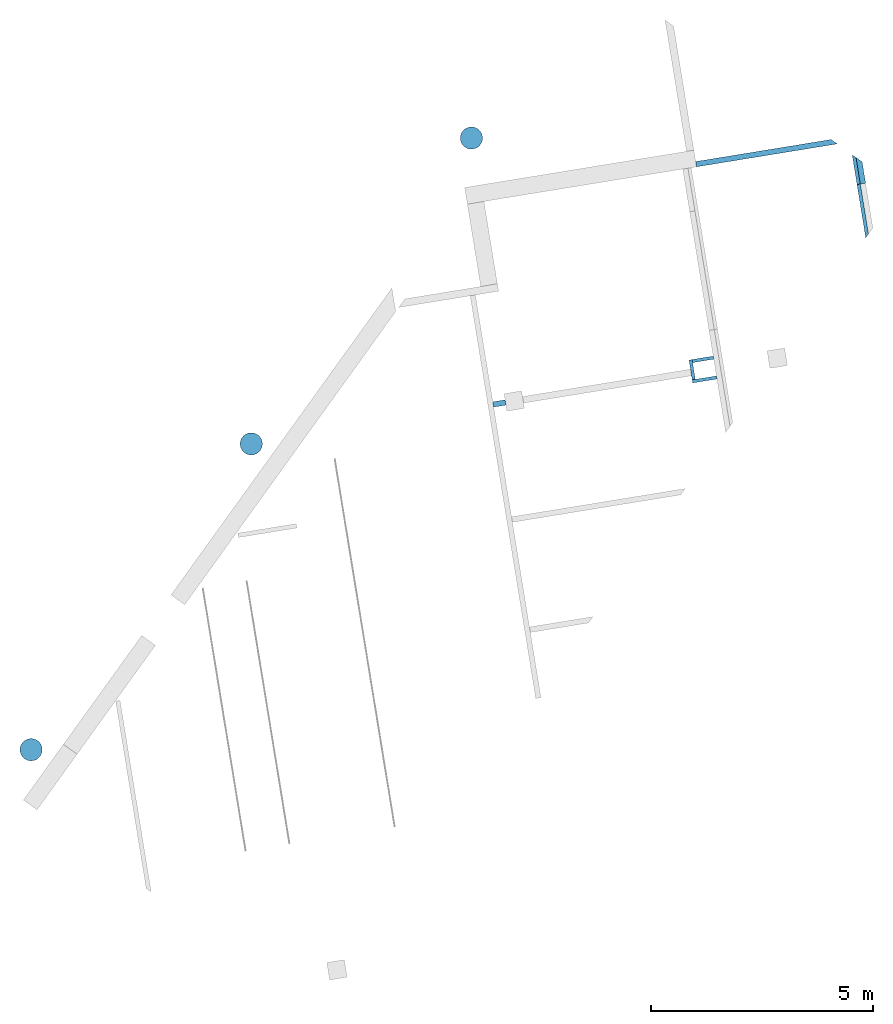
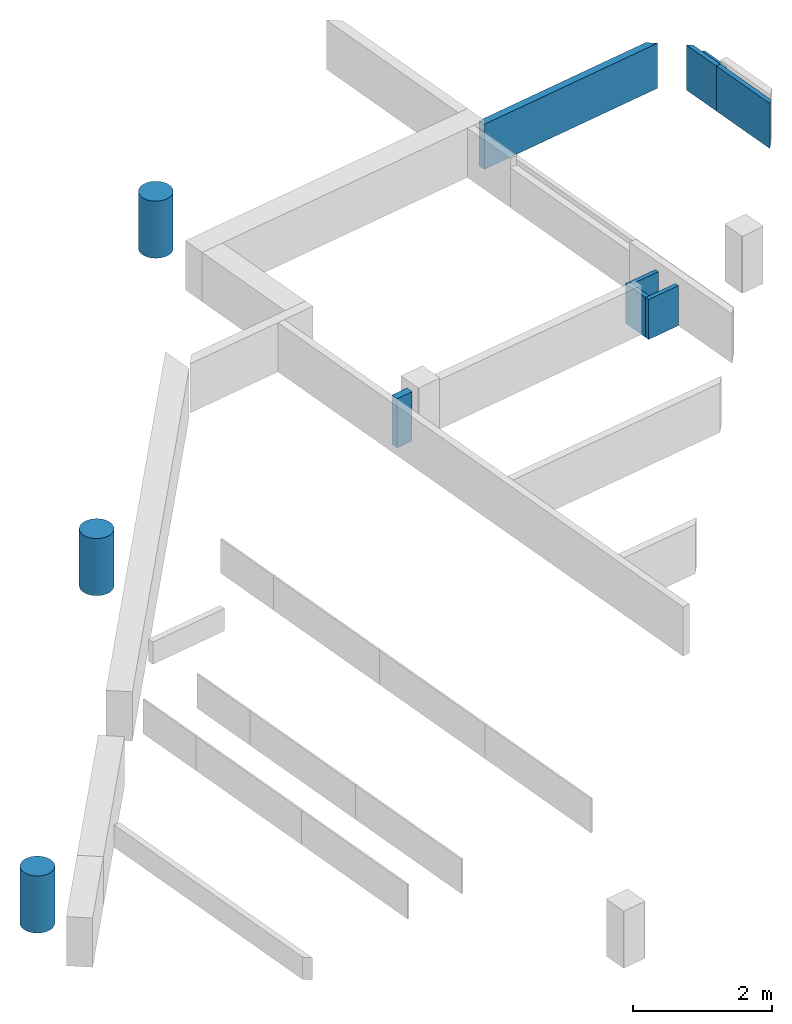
# One storey, part 2 of 2: 8 walls, 3 columns.
"""IFC2X3 building model written with IfcOpenShell, lengths in millimetres."""

from ifc_helpers import new_model, entity, si_unit, converted_unit, derived_unit, direction, frame, origin, origin_with_axes, place, context, subcontext, project, spatial, faceted_brep, material, layer, layer_set, type_object, element, save


model = new_model("IFC2X3")

# Units and contexts
model_context = context("Model", 3, precision=0.01, world=origin(), true_north=direction((6.12323399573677e-17, 1.0)))
plan_context = context("Plan", 3, precision=1e-05, world=origin_with_axes())
body_context = subcontext(model_context, "Body", "Model", "MODEL_VIEW")
ifc_project = project(units=[converted_unit("PLANEANGLEUNIT", "DEGREE", entity("IfcPositiveLengthMeasure", 0.0174532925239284), si_unit("PLANEANGLEUNIT", "RADIAN"), dimensions=[0, 0, 0, 0, 0, 0, 0]), si_unit("AREAUNIT", "SQUARE_METRE"), si_unit("LENGTHUNIT", "METRE", prefix="MILLI"), si_unit("MASSUNIT", "GRAM", prefix="KILO"), si_unit("POWERUNIT", "WATT"), si_unit("PRESSUREUNIT", "PASCAL", prefix="KILO"), si_unit("FORCEUNIT", "NEWTON", prefix="KILO"), si_unit("ELECTRICVOLTAGEUNIT", "VOLT"), si_unit("ELECTRICCURRENTUNIT", "AMPERE"), si_unit("THERMODYNAMICTEMPERATUREUNIT", "DEGREE_CELSIUS"), si_unit("TIMEUNIT", "SECOND"), si_unit("VOLUMEUNIT", "CUBIC_METRE"), derived_unit("LINEARVELOCITYUNIT", [(si_unit("LENGTHUNIT", "METRE"), 1), (si_unit("TIMEUNIT", "SECOND"), -1)]), derived_unit("VOLUMETRICFLOWRATEUNIT", [(si_unit("VOLUMEUNIT", "CUBIC_METRE"), 1), (si_unit("TIMEUNIT", "SECOND"), -1)]), derived_unit("THERMALTRANSMITTANCEUNIT", [(si_unit("POWERUNIT", "WATT"), 1), (si_unit("THERMODYNAMICTEMPERATUREUNIT", "KELVIN"), -1), (si_unit("AREAUNIT", "SQUARE_METRE"), -1)]), derived_unit("SOUNDPRESSUREUNIT", [(si_unit("PRESSUREUNIT", "PASCAL"), 1)])], contexts=[model_context, plan_context])

# Site, building, storey
site_placement = place(None, frame((-305029.896016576, -232111.759730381, 0.0), z_axis=(0.0, 0.0, 1.0), x_axis=(-0.160806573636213, 0.986985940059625, 0.0)))
site = spatial("IfcSite", under=ifc_project, at=site_placement, Name="Default", CompositionType="ELEMENT")
building_placement = place(site_placement, frame((0.0, 0.0, 0.0), z_axis=(0.0, 0.0, 1.0), x_axis=(1.0, -2.77555756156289e-17, 0.0)))
building = spatial("IfcBuilding", under=site, at=building_placement, Name="br001-a-200-1-0001", CompositionType="ELEMENT")
storey_placement = place(building_placement, frame((0.0, 0.0, 51360.0000000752), z_axis=(0.0, 0.0, 1.0), x_axis=(1.0, -2.77555756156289e-17, 0.0)))
storey = spatial("IfcBuildingStorey", under=building, at=storey_placement, Name="H01-Nivå D+0,36", CompositionType="ELEMENT", Elevation=51360.0000000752)

# Columns
ifc_material_1 = material(Name="_NSW Betong")
column_type = type_object("IfcColumnType", Name="NSW Søyle - Betong rund:ø500 mm", PredefinedType="COLUMN", material=ifc_material_1)
column_1_placement = place(storey_placement, frame((1190678.59858442, -686766.378367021, -51360.0000000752), z_axis=(0.0, 0.0, 1.0), x_axis=(1.0, -2.77555756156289e-17, 0.0)))
element("IfcColumn", 1, at=column_1_placement, inside=storey, type_object=column_type, Name="NSW Søyle - Betong rund:ø500 mm", ObjectType="NSW Søyle - Betong rund:ø500 mm", context=body_context, shape_type="Brep", body=[
    faceted_brep([(249.999999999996, -3.94377568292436e-13, 54500.0), (246.201938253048, -43.4120444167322, 54500.0), (246.201938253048, -43.4120444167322, 55500.0), (249.999999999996, -3.94377568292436e-13, 55500.0), (246.201938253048, 43.4120444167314, 54500.0), (246.201938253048, 43.4120444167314, 55500.0), (234.923155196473, 85.5050358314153, 54500.0), (234.923155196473, 85.5050358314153, 55500.0), (216.506350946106, 124.999999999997, 54500.0), (216.506350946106, 124.999999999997, 55500.0), (191.511110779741, 160.696902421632, 54500.0), (191.511110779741, 160.696902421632, 55500.0), (160.696902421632, 191.511110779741, 54500.0), (160.696902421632, 191.511110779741, 55500.0), (124.999999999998, 216.506350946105, 54500.0), (124.999999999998, 216.506350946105, 55500.0), (85.5050358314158, 234.923155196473, 54500.0), (85.5050358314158, 234.923155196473, 55500.0), (43.4120444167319, 246.201938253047, 54500.0), (43.4120444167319, 246.201938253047, 55500.0), (6.17269247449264e-14, 249.999999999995, 54500.0), (6.17269247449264e-14, 249.999999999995, 55500.0), (-43.4120444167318, 246.201938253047, 54500.0), (-43.4120444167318, 246.201938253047, 55500.0), (-85.5050358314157, 234.923155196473, 54500.0), (-85.5050358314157, 234.923155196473, 55500.0), (-124.999999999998, 216.506350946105, 54500.0), (-124.999999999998, 216.506350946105, 55500.0), (-160.696902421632, 191.511110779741, 54500.0), (-160.696902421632, 191.511110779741, 55500.0), (-191.511110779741, 160.696902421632, 54500.0), (-191.511110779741, 160.696902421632, 55500.0), (-216.506350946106, 124.999999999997, 54500.0), (-216.506350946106, 124.999999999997, 55500.0), (-234.923155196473, 85.5050358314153, 54500.0), (-234.923155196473, 85.5050358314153, 55500.0), (-246.201938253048, 43.4120444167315, 54500.0), (-246.201938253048, 43.4120444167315, 55500.0), (-249.999999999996, -3.63761398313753e-13, 54500.0), (-249.999999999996, -3.63761398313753e-13, 55500.0), (-246.201938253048, -43.4120444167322, 54500.0), (-246.201938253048, -43.4120444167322, 55500.0), (-234.923155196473, -85.5050358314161, 54500.0), (-234.923155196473, -85.5050358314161, 55500.0), (-216.506350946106, -124.999999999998, 54500.0), (-216.506350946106, -124.999999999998, 55500.0), (-191.511110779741, -160.696902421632, 54500.0), (-191.511110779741, -160.696902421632, 55500.0), (-160.696902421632, -191.511110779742, 54500.0), (-160.696902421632, -191.511110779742, 55500.0), (-124.999999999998, -216.506350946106, 54500.0), (-124.999999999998, -216.506350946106, 55500.0), (-85.5050358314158, -234.923155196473, 54500.0), (-85.5050358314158, -234.923155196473, 55500.0), (-43.4120444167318, -246.201938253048, 54500.0), (-43.4120444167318, -246.201938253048, 55500.0), (4.94584787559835e-16, -249.999999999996, 54500.0), (4.94584787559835e-16, -249.999999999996, 55500.0), (43.4120444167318, -246.201938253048, 54500.0), (43.4120444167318, -246.201938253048, 55500.0), (85.5050358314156, -234.923155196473, 54500.0), (85.5050358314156, -234.923155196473, 55500.0), (124.999999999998, -216.506350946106, 54500.0), (124.999999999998, -216.506350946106, 55500.0), (160.696902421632, -191.511110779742, 54500.0), (160.696902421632, -191.511110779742, 55500.0), (191.511110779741, -160.696902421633, 54500.0), (191.511110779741, -160.696902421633, 55500.0), (216.506350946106, -124.999999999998, 54500.0), (216.506350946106, -124.999999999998, 55500.0), (234.923155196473, -85.5050358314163, 54500.0), (234.923155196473, -85.5050358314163, 55500.0)], [[[0, 1, 2, 3]], [[4, 0, 3, 5]], [[6, 4, 5, 7]], [[8, 6, 7, 9]], [[10, 8, 9, 11]], [[12, 10, 11, 13]], [[14, 12, 13, 15]], [[16, 14, 15, 17]], [[18, 16, 17, 19]], [[20, 18, 19, 21]], [[22, 20, 21, 23]], [[24, 22, 23, 25]], [[26, 24, 25, 27]], [[28, 26, 27, 29]], [[30, 28, 29, 31]], [[32, 30, 31, 33]], [[34, 32, 33, 35]], [[36, 34, 35, 37]], [[38, 36, 37, 39]], [[40, 38, 39, 41]], [[42, 40, 41, 43]], [[44, 42, 43, 45]], [[46, 44, 45, 47]], [[48, 46, 47, 49]], [[50, 48, 49, 51]], [[52, 50, 51, 53]], [[54, 52, 53, 55]], [[56, 54, 55, 57]], [[58, 56, 57, 59]], [[60, 58, 59, 61]], [[62, 60, 61, 63]], [[64, 62, 63, 65]], [[66, 64, 65, 67]], [[68, 66, 67, 69]], [[70, 68, 69, 71]], [[1, 70, 71, 2]], [[3, 2, 71, 69, 67, 65, 63, 61, 59, 57, 55, 53, 51, 49, 47, 45, 43, 41, 39, 37, 35, 33, 31, 29, 27, 25, 23, 21, 19, 17, 15, 13, 11, 9, 7, 5]], [[4, 6, 8, 10, 12, 14, 16, 18, 20, 22, 24, 26, 28, 30, 32, 34, 36, 38, 40, 42, 44, 46, 48, 50, 52, 54, 56, 58, 60, 62, 64, 66, 68, 70, 1, 0]]], orient=[[False], [False], [False], [False], [False], [False], [False], [False], [False], [False], [False], [False], [False], [False], [False], [False], [False], [False], [False], [False], [False], [False], [False], [False], [False], [False], [False], [False], [False], [False], [False], [False], [False], [False], [False], [False], [False], [False]]),
])
column_2_placement = place(storey_placement, frame((1178678.59858442, -674766.378367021, -51360.0000000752), z_axis=(0.0, 0.0, 1.0), x_axis=(1.0, -2.77555756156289e-17, 0.0)))
element("IfcColumn", 2, at=column_2_placement, inside=storey, type_object=column_type, Name="NSW Søyle - Betong rund:ø500 mm", ObjectType="NSW Søyle - Betong rund:ø500 mm", context=body_context, shape_type="Brep", body=[
    faceted_brep([(249.999999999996, -3.94377568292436e-13, 54500.0), (246.201938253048, -43.4120444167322, 54500.0), (246.201938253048, -43.4120444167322, 55500.0), (249.999999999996, -3.94377568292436e-13, 55500.0), (246.201938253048, 43.4120444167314, 54500.0), (246.201938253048, 43.4120444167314, 55500.0), (234.923155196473, 85.5050358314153, 54500.0), (234.923155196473, 85.5050358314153, 55500.0), (216.506350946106, 124.999999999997, 54500.0), (216.506350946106, 124.999999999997, 55500.0), (191.511110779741, 160.696902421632, 54500.0), (191.511110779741, 160.696902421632, 55500.0), (160.696902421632, 191.511110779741, 54500.0), (160.696902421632, 191.511110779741, 55500.0), (124.999999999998, 216.506350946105, 54500.0), (124.999999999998, 216.506350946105, 55500.0), (85.5050358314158, 234.923155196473, 54500.0), (85.5050358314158, 234.923155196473, 55500.0), (43.4120444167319, 246.201938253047, 54500.0), (43.4120444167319, 246.201938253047, 55500.0), (6.17269247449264e-14, 249.999999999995, 54500.0), (6.17269247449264e-14, 249.999999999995, 55500.0), (-43.4120444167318, 246.201938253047, 54500.0), (-43.4120444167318, 246.201938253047, 55500.0), (-85.5050358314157, 234.923155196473, 54500.0), (-85.5050358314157, 234.923155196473, 55500.0), (-124.999999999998, 216.506350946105, 54500.0), (-124.999999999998, 216.506350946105, 55500.0), (-160.696902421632, 191.511110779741, 54500.0), (-160.696902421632, 191.511110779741, 55500.0), (-191.511110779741, 160.696902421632, 54500.0), (-191.511110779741, 160.696902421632, 55500.0), (-216.506350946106, 124.999999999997, 54500.0), (-216.506350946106, 124.999999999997, 55500.0), (-234.923155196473, 85.5050358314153, 54500.0), (-234.923155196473, 85.5050358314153, 55500.0), (-246.201938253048, 43.4120444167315, 54500.0), (-246.201938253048, 43.4120444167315, 55500.0), (-249.999999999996, -3.63761398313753e-13, 54500.0), (-249.999999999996, -3.63761398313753e-13, 55500.0), (-246.201938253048, -43.4120444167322, 54500.0), (-246.201938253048, -43.4120444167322, 55500.0), (-234.923155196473, -85.5050358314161, 54500.0), (-234.923155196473, -85.5050358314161, 55500.0), (-216.506350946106, -124.999999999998, 54500.0), (-216.506350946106, -124.999999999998, 55500.0), (-191.511110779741, -160.696902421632, 54500.0), (-191.511110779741, -160.696902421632, 55500.0), (-160.696902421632, -191.511110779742, 54500.0), (-160.696902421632, -191.511110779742, 55500.0), (-124.999999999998, -216.506350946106, 54500.0), (-124.999999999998, -216.506350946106, 55500.0), (-85.5050358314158, -234.923155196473, 54500.0), (-85.5050358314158, -234.923155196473, 55500.0), (-43.4120444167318, -246.201938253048, 54500.0), (-43.4120444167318, -246.201938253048, 55500.0), (4.94584787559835e-16, -249.999999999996, 54500.0), (4.94584787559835e-16, -249.999999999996, 55500.0), (43.4120444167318, -246.201938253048, 54500.0), (43.4120444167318, -246.201938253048, 55500.0), (85.5050358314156, -234.923155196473, 54500.0), (85.5050358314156, -234.923155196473, 55500.0), (124.999999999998, -216.506350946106, 54500.0), (124.999999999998, -216.506350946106, 55500.0), (160.696902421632, -191.511110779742, 54500.0), (160.696902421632, -191.511110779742, 55500.0), (191.511110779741, -160.696902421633, 54500.0), (191.511110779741, -160.696902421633, 55500.0), (216.506350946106, -124.999999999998, 54500.0), (216.506350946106, -124.999999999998, 55500.0), (234.923155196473, -85.5050358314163, 54500.0), (234.923155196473, -85.5050358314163, 55500.0)], [[[0, 1, 2, 3]], [[4, 0, 3, 5]], [[6, 4, 5, 7]], [[8, 6, 7, 9]], [[10, 8, 9, 11]], [[12, 10, 11, 13]], [[14, 12, 13, 15]], [[16, 14, 15, 17]], [[18, 16, 17, 19]], [[20, 18, 19, 21]], [[22, 20, 21, 23]], [[24, 22, 23, 25]], [[26, 24, 25, 27]], [[28, 26, 27, 29]], [[30, 28, 29, 31]], [[32, 30, 31, 33]], [[34, 32, 33, 35]], [[36, 34, 35, 37]], [[38, 36, 37, 39]], [[40, 38, 39, 41]], [[42, 40, 41, 43]], [[44, 42, 43, 45]], [[46, 44, 45, 47]], [[48, 46, 47, 49]], [[50, 48, 49, 51]], [[52, 50, 51, 53]], [[54, 52, 53, 55]], [[56, 54, 55, 57]], [[58, 56, 57, 59]], [[60, 58, 59, 61]], [[62, 60, 61, 63]], [[64, 62, 63, 65]], [[66, 64, 65, 67]], [[68, 66, 67, 69]], [[70, 68, 69, 71]], [[1, 70, 71, 2]], [[3, 2, 71, 69, 67, 65, 63, 61, 59, 57, 55, 53, 51, 49, 47, 45, 43, 41, 39, 37, 35, 33, 31, 29, 27, 25, 23, 21, 19, 17, 15, 13, 11, 9, 7, 5]], [[4, 6, 8, 10, 12, 14, 16, 18, 20, 22, 24, 26, 28, 30, 32, 34, 36, 38, 40, 42, 44, 46, 48, 50, 52, 54, 56, 58, 60, 62, 64, 66, 68, 70, 1, 0]]], orient=[[False], [False], [False], [False], [False], [False], [False], [False], [False], [False], [False], [False], [False], [False], [False], [False], [False], [False], [False], [False], [False], [False], [False], [False], [False], [False], [False], [False], [False], [False], [False], [False], [False], [False], [False], [False], [False], [False]]),
])
column_3_placement = place(storey_placement, frame((1184678.59858442, -680766.378367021, -51360.0000000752), z_axis=(0.0, 0.0, 1.0), x_axis=(1.0, -2.77555756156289e-17, 0.0)))
element("IfcColumn", 3, at=column_3_placement, inside=storey, type_object=column_type, Name="NSW Søyle - Betong rund:ø500 mm", ObjectType="NSW Søyle - Betong rund:ø500 mm", context=body_context, shape_type="Brep", body=[
    faceted_brep([(249.999999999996, -3.94377568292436e-13, 54500.0), (246.201938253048, -43.4120444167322, 54500.0), (246.201938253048, -43.4120444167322, 55500.0), (249.999999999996, -3.94377568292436e-13, 55500.0), (246.201938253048, 43.4120444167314, 54500.0), (246.201938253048, 43.4120444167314, 55500.0), (234.923155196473, 85.5050358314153, 54500.0), (234.923155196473, 85.5050358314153, 55500.0), (216.506350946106, 124.999999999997, 54500.0), (216.506350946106, 124.999999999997, 55500.0), (191.511110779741, 160.696902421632, 54500.0), (191.511110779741, 160.696902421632, 55500.0), (160.696902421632, 191.511110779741, 54500.0), (160.696902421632, 191.511110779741, 55500.0), (124.999999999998, 216.506350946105, 54500.0), (124.999999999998, 216.506350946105, 55500.0), (85.5050358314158, 234.923155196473, 54500.0), (85.5050358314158, 234.923155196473, 55500.0), (43.4120444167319, 246.201938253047, 54500.0), (43.4120444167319, 246.201938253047, 55500.0), (6.17269247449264e-14, 249.999999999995, 54500.0), (6.17269247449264e-14, 249.999999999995, 55500.0), (-43.4120444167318, 246.201938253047, 54500.0), (-43.4120444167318, 246.201938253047, 55500.0), (-85.5050358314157, 234.923155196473, 54500.0), (-85.5050358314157, 234.923155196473, 55500.0), (-124.999999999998, 216.506350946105, 54500.0), (-124.999999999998, 216.506350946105, 55500.0), (-160.696902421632, 191.511110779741, 54500.0), (-160.696902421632, 191.511110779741, 55500.0), (-191.511110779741, 160.696902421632, 54500.0), (-191.511110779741, 160.696902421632, 55500.0), (-216.506350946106, 124.999999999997, 54500.0), (-216.506350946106, 124.999999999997, 55500.0), (-234.923155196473, 85.5050358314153, 54500.0), (-234.923155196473, 85.5050358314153, 55500.0), (-246.201938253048, 43.4120444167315, 54500.0), (-246.201938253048, 43.4120444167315, 55500.0), (-249.999999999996, -3.63761398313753e-13, 54500.0), (-249.999999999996, -3.63761398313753e-13, 55500.0), (-246.201938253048, -43.4120444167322, 54500.0), (-246.201938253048, -43.4120444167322, 55500.0), (-234.923155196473, -85.5050358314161, 54500.0), (-234.923155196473, -85.5050358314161, 55500.0), (-216.506350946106, -124.999999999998, 54500.0), (-216.506350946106, -124.999999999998, 55500.0), (-191.511110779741, -160.696902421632, 54500.0), (-191.511110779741, -160.696902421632, 55500.0), (-160.696902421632, -191.511110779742, 54500.0), (-160.696902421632, -191.511110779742, 55500.0), (-124.999999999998, -216.506350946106, 54500.0), (-124.999999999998, -216.506350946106, 55500.0), (-85.5050358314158, -234.923155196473, 54500.0), (-85.5050358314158, -234.923155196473, 55500.0), (-43.4120444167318, -246.201938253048, 54500.0), (-43.4120444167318, -246.201938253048, 55500.0), (4.94584787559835e-16, -249.999999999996, 54500.0), (4.94584787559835e-16, -249.999999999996, 55500.0), (43.4120444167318, -246.201938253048, 54500.0), (43.4120444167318, -246.201938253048, 55500.0), (85.5050358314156, -234.923155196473, 54500.0), (85.5050358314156, -234.923155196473, 55500.0), (124.999999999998, -216.506350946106, 54500.0), (124.999999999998, -216.506350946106, 55500.0), (160.696902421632, -191.511110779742, 54500.0), (160.696902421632, -191.511110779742, 55500.0), (191.511110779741, -160.696902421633, 54500.0), (191.511110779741, -160.696902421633, 55500.0), (216.506350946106, -124.999999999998, 54500.0), (216.506350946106, -124.999999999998, 55500.0), (234.923155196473, -85.5050358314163, 54500.0), (234.923155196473, -85.5050358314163, 55500.0)], [[[0, 1, 2, 3]], [[4, 0, 3, 5]], [[6, 4, 5, 7]], [[8, 6, 7, 9]], [[10, 8, 9, 11]], [[12, 10, 11, 13]], [[14, 12, 13, 15]], [[16, 14, 15, 17]], [[18, 16, 17, 19]], [[20, 18, 19, 21]], [[22, 20, 21, 23]], [[24, 22, 23, 25]], [[26, 24, 25, 27]], [[28, 26, 27, 29]], [[30, 28, 29, 31]], [[32, 30, 31, 33]], [[34, 32, 33, 35]], [[36, 34, 35, 37]], [[38, 36, 37, 39]], [[40, 38, 39, 41]], [[42, 40, 41, 43]], [[44, 42, 43, 45]], [[46, 44, 45, 47]], [[48, 46, 47, 49]], [[50, 48, 49, 51]], [[52, 50, 51, 53]], [[54, 52, 53, 55]], [[56, 54, 55, 57]], [[58, 56, 57, 59]], [[60, 58, 59, 61]], [[62, 60, 61, 63]], [[64, 62, 63, 65]], [[66, 64, 65, 67]], [[68, 66, 67, 69]], [[70, 68, 69, 71]], [[1, 70, 71, 2]], [[3, 2, 71, 69, 67, 65, 63, 61, 59, 57, 55, 53, 51, 49, 47, 45, 43, 41, 39, 37, 35, 33, 31, 29, 27, 25, 23, 21, 19, 17, 15, 13, 11, 9, 7, 5]], [[4, 6, 8, 10, 12, 14, 16, 18, 20, 22, 24, 26, 28, 30, 32, 34, 36, 38, 40, 42, 44, 46, 48, 50, 52, 54, 56, 58, 60, 62, 64, 66, 68, 70, 1, 0]]], orient=[[False], [False], [False], [False], [False], [False], [False], [False], [False], [False], [False], [False], [False], [False], [False], [False], [False], [False], [False], [False], [False], [False], [False], [False], [False], [False], [False], [False], [False], [False], [False], [False], [False], [False], [False], [False], [False], [False]]),
])

# Walls
ifc_material_2 = material(Name="_NSW Standard")
ifc_layer_1 = layer(ifc_material_2, 120.0)
ifc_layer_set_1 = layer_set([ifc_layer_1], Name="Basic Wall:A242 - Standard 120")
wall_type_1 = type_object("IfcWallType", Name="Basic Wall:A242 - Standard 120", PredefinedType="STANDARD", material=ifc_layer_set_1)
wall_1_placement = place(storey_placement, frame((1184678.59858442, -686566.378367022, -7.5167918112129e-08), z_axis=(0.0, 0.0, 1.0), x_axis=(2.77555756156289e-17, 1.0, 0.0)))
element("IfcWall", 4, at=wall_1_placement, inside=storey, type_object=wall_type_1, Name="Basic Wall:A242 - Standard 120", ObjectType="Basic Wall:A242 - Standard 120", context=body_context, shape_type="Brep", body=[
    faceted_brep([(279.000000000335, 60.0000000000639, 3140.00000000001), (279.000000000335, -60.0000000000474, 3140.00000000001), (279.000000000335, -60.0000000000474, 4002.00000000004), (279.000000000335, 60.0000000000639, 4002.00000000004), (0.0, 60.0000000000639, 3140.00000000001), (0.0, 60.0000000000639, 4002.00000000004), (0.0, -60.0000000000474, 3140.00000000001), (0.0, -60.0000000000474, 4002.00000000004)], [[[0, 1, 2, 3]], [[4, 0, 3, 5]], [[6, 4, 5, 7]], [[1, 6, 7, 2]], [[3, 2, 7, 5]], [[4, 6, 1, 0]]], orient=[[False], [False], [False], [False], [False], [False]]),
])
ifc_layer_2 = layer(ifc_material_2, 120.0)
ifc_layer_set_2 = layer_set([ifc_layer_2], Name="Basic Wall:Ny IV R'w48 EI60 dB")
wall_type_2 = type_object("IfcWallType", Name="Basic Wall:Ny IV R'w48 EI60 dB", PredefinedType="STANDARD", material=ifc_layer_set_2)
wall_2_placement = place(storey_placement, frame((1189283.59858442, -691666.378367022, 0.0), z_axis=(0.0, 0.0, 1.0), x_axis=(-2.77555756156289e-17, -1.0, 0.0)))
element("IfcWall", 5, at=wall_2_placement, inside=storey, type_object=wall_type_2, Name="Basic Wall:Ny IV R'w48 EI60 dB", ObjectType="Basic Wall:Ny IV R'w48 EI60 dB", context=body_context, shape_type="Brep", body=[
    faceted_brep([(2.27373675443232e-13, 60.0000000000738, 3139.99999992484), (3088.21149664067, 60.0000000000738, 3139.99999992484), (3088.21149664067, 60.0000000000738, 3929.9999999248), (2.27373675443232e-13, 60.0000000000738, 3929.9999999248), (2.27373675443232e-13, -60.0000000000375, 3139.99999992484), (2.27373675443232e-13, -60.0000000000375, 3929.9999999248), (3208.21149664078, -60.0000000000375, 3929.9999999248), (3208.21149664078, -60.0000000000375, 3139.99999992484)], [[[0, 1, 2, 3]], [[4, 0, 3, 5]], [[6, 7, 4, 5]], [[2, 6, 5, 3]], [[7, 6, 2, 1]], [[1, 0, 4, 7]]], orient=[[False], [False], [False], [False], [False], [False]]),
])
wall_3_placement = place(storey_placement, frame((1189343.59858442, -695303.878367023, 0.0), z_axis=(0.0, 0.0, 1.0), x_axis=(-1.0, 2.77555756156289e-17, 0.0)))
element("IfcWall", 6, at=wall_3_placement, inside=storey, type_object=wall_type_2, Name="Basic Wall:Ny IV R'w48 EI60 dB", ObjectType="Basic Wall:Ny IV R'w48 EI60 dB", context=body_context, shape_type="Brep", body=[
    faceted_brep([(1095.00000000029, 60.0000000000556, 3139.99999992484), (1095.00000000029, -60.0000000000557, 3139.99999992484), (1095.00000000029, -60.0000000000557, 3839.99999992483), (1095.00000000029, 60.0000000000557, 3839.99999992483), (609.288503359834, 60.0000000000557, 3839.99999992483), (609.288503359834, 60.0000000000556, 3139.99999992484), (489.288503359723, -60.0000000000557, 3139.99999992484), (489.288503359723, -60.0000000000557, 3839.99999992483)], [[[0, 1, 2, 3]], [[4, 5, 0, 3]], [[1, 6, 7, 2]], [[7, 4, 3, 2]], [[5, 4, 7, 6]], [[6, 1, 0, 5]]], orient=[[False], [False], [False], [False], [False], [False]]),
])
ifc_layer_3 = layer(ifc_material_2, 70.0)
ifc_layer_set_3 = layer_set([ifc_layer_3], Name="Basic Wall:A242 - Standard 70")
wall_type_3 = type_object("IfcWallType", Name="Basic Wall:A242 - Standard 70", PredefinedType="STANDARD", material=ifc_layer_set_3)
wall_4_placement = place(storey_placement, frame((1184469.33786564, -691350.378367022, 0.0), z_axis=(0.0, 0.0, 1.0), x_axis=(2.77555756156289e-17, 1.0, 0.0)))
element("IfcWall", 7, at=wall_4_placement, inside=storey, type_object=wall_type_3, Name="Basic Wall:A242 - Standard 70", ObjectType="Basic Wall:A242 - Standard 70", context=body_context, shape_type="Brep", body=[
    faceted_brep([(551.500000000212, 35.000000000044, 3139.99999992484), (551.500000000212, -35.000000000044, 3139.99999992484), (551.500000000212, -35.000000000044, 3839.99999992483), (551.500000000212, 35.000000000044, 3839.99999992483), (0.0, 35.000000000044, 3139.99999992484), (0.0, 35.000000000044, 3839.99999992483), (0.0, -35.000000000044, 3139.99999992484), (0.0, -35.000000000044, 3839.99999992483)], [[[0, 1, 2, 3]], [[4, 0, 3, 5]], [[6, 4, 5, 7]], [[1, 6, 7, 2]], [[3, 2, 7, 5]], [[4, 6, 1, 0]]], orient=[[False], [False], [False], [False], [False], [False]]),
])
wall_5_placement = place(storey_placement, frame((1184504.33786564, -690833.878367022, 0.0), z_axis=(0.0, 0.0, 1.0), x_axis=(1.0, -2.77555756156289e-17, 0.0)))
element("IfcWall", 8, at=wall_5_placement, inside=storey, type_object=wall_type_3, Name="Basic Wall:A242 - Standard 70", ObjectType="Basic Wall:A242 - Standard 70", context=body_context, shape_type="Brep", body=[
    faceted_brep([(452.196243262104, 35.000000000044, 3139.99999992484), (452.196243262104, -35.000000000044, 3139.99999992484), (452.196243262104, -35.000000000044, 3839.99999992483), (452.196243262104, 35.000000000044, 3839.99999992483), (0.0, 35.000000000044, 3139.99999992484), (0.0, 35.000000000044, 3839.99999992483), (0.0, -35.000000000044, 3139.99999992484), (0.0, -35.000000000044, 3839.99999992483)], [[[0, 1, 2, 3]], [[4, 0, 3, 5]], [[6, 4, 5, 7]], [[1, 6, 7, 2]], [[3, 2, 7, 5]], [[4, 6, 1, 0]]], orient=[[False], [False], [False], [False], [False], [False]]),
])
wall_6_placement = place(storey_placement, frame((1184921.53410891, -690868.878367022, 0.0), z_axis=(0.0, 0.0, 1.0), x_axis=(-2.77555756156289e-17, -1.0, 0.0)))
element("IfcWall", 9, at=wall_6_placement, inside=storey, type_object=wall_type_3, Name="Basic Wall:A242 - Standard 70", ObjectType="Basic Wall:A242 - Standard 70", context=body_context, shape_type="Brep", body=[
    faceted_brep([(481.500000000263, 35.000000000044, 3139.99999992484), (481.500000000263, -35.000000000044, 3139.99999992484), (481.500000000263, -35.000000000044, 3839.99999992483), (481.500000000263, 35.000000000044, 3839.99999992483), (0.0, 35.000000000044, 3139.99999992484), (0.0, 35.000000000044, 3839.99999992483), (0.0, -35.000000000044, 3139.99999992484), (0.0, -35.000000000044, 3839.99999992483)], [[[0, 1, 2, 3]], [[4, 0, 3, 5]], [[6, 4, 5, 7]], [[1, 6, 7, 2]], [[3, 2, 7, 5]], [[4, 6, 1, 0]]], orient=[[False], [False], [False], [False], [False], [False]]),
])
ifc_layer_4 = layer(ifc_material_2, 75.0)
ifc_layer_set_4 = layer_set([ifc_layer_4], Name="Basic Wall:Ny IV75 ensidig lydforbedrende tiltak")
wall_type_4 = type_object("IfcWallType", Name="Basic Wall:Ny IV75 ensidig lydforbedrende tiltak", PredefinedType="STANDARD", material=ifc_layer_set_4)
wall_7_placement = place(storey_placement, frame((1182518.59858442, -695206.378367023, 0.0), z_axis=(0.0, 0.0, 1.0), x_axis=(1.0, -2.77555756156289e-17, 0.0)))
element("IfcWall", 10, at=wall_7_placement, inside=storey, type_object=wall_type_4, Name="Basic Wall:Ny IV75 ensidig lydforbedrende tiltak", ObjectType="Basic Wall:Ny IV75 ensidig lydforbedrende tiltak", context=body_context, shape_type="Brep", body=[
    faceted_brep([(5730.00000000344, -37.5000000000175, 3139.99999992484), (4589.40388993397, -37.5000000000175, 3139.99999992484), (4589.40388993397, -37.5000000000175, 3929.9999999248), (5730.00000000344, -37.5000000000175, 3929.9999999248), (5730.00000000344, 37.5000000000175, 3139.99999992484), (5730.00000000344, 37.5000000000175, 3929.9999999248), (4514.40388993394, 37.5000000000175, 3929.9999999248), (4514.40388993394, 37.5000000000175, 3139.99999992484)], [[[0, 1, 2, 3]], [[4, 0, 3, 5]], [[6, 7, 4, 5]], [[2, 6, 5, 3]], [[7, 6, 2, 1]], [[1, 0, 4, 7]]], orient=[[False], [False], [False], [False], [False], [False]]),
])
ifc_layer_5 = layer(ifc_material_2, 75.0)
ifc_layer_set_5 = layer_set([ifc_layer_5], Name="Basic Wall:Ny IV75 ensidig")
wall_type_5 = type_object("IfcWallType", Name="Basic Wall:Ny IV75 ensidig", PredefinedType="STANDARD", material=ifc_layer_set_5)
wall_8_placement = place(storey_placement, frame((1188248.59858442, -695206.378367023, 0.0), z_axis=(0.0, 0.0, 1.0), x_axis=(1.0, -2.77555756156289e-17, 0.0)))
element("IfcWall", 11, at=wall_8_placement, inside=storey, type_object=wall_type_5, Name="Basic Wall:Ny IV75 ensidig", ObjectType="Basic Wall:Ny IV75 ensidig", context=body_context, shape_type="Brep", body=[
    faceted_brep([(0.0, 37.5000000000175, 3139.99999992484), (680.711496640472, 37.5000000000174, 3139.99999992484), (680.711496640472, 37.5000000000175, 3929.9999999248), (0.0, 37.5000000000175, 3929.9999999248), (0.0, -37.5000000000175, 3139.99999992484), (0.0, -37.5000000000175, 3929.9999999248), (605.711496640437, -37.5000000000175, 3929.9999999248), (605.711496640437, -37.5000000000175, 3139.99999992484)], [[[0, 1, 2, 3]], [[4, 0, 3, 5]], [[6, 7, 4, 5]], [[2, 6, 5, 3]], [[7, 6, 2, 1]], [[1, 0, 4, 7]]], orient=[[False], [False], [False], [False], [False], [False]]),
])

save(model, "model.ifc")
